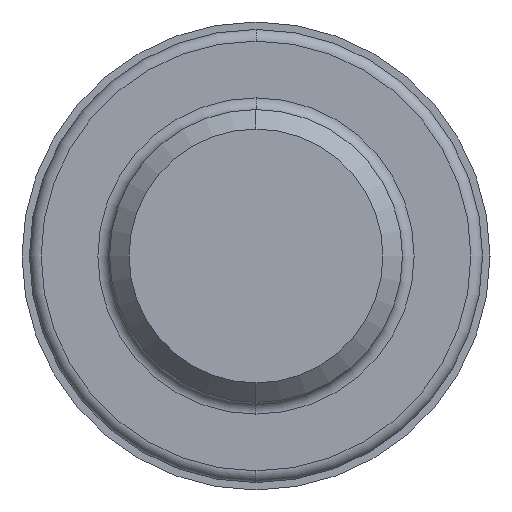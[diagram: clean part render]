
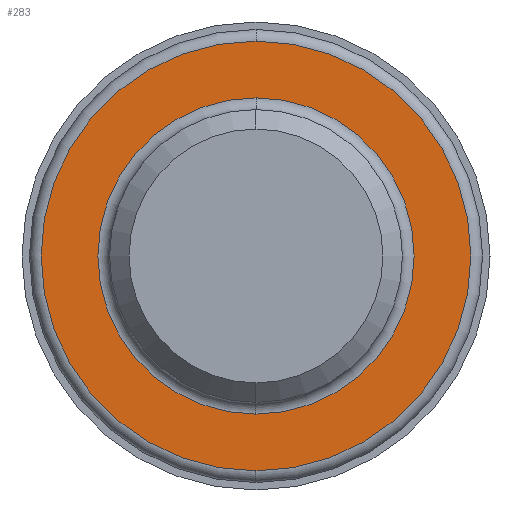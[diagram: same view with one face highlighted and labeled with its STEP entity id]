
A CAD part, left-side view. The second image highlights one B-rep face of the part: STEP entity #283.
In plain terms, the highlighted planar face has unit normal (-1, 0, 0).
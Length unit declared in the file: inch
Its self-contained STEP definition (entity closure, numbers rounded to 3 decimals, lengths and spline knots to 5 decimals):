
#59 = AXIS2_PLACEMENT_3D ( 'NONE', #202, #521, #146 ) ;
#68 = CARTESIAN_POINT ( 'NONE',  ( 2.125, 0., -0.55 ) ) ;
#75 = CARTESIAN_POINT ( 'NONE',  ( 2.125, 0., 0.40485 ) ) ;
#76 = AXIS2_PLACEMENT_3D ( 'NONE', #295, #250, #562 ) ;
#92 = EDGE_LOOP ( 'NONE', ( #256, #463 ) ) ;
#107 = EDGE_CURVE ( 'NONE', #120, #126, #249, .T. ) ;
#113 = AXIS2_PLACEMENT_3D ( 'NONE', #510, #210, #477 ) ;
#115 = CARTESIAN_POINT ( 'NONE',  ( 2.125, 0., 0. ) ) ;
#120 = VERTEX_POINT ( 'NONE', #139 ) ;
#123 = AXIS2_PLACEMENT_3D ( 'NONE', #241, #557, #189 ) ;
#126 = VERTEX_POINT ( 'NONE', #75 ) ;
#139 = CARTESIAN_POINT ( 'NONE',  ( 2.125, 0., -0.40485 ) ) ;
#146 = DIRECTION ( 'NONE',  ( 0., 0., 1. ) ) ;
#163 = EDGE_CURVE ( 'NONE', #227, #188, #489, .T. ) ;
#188 = VERTEX_POINT ( 'NONE', #68 ) ;
#189 = DIRECTION ( 'NONE',  ( 0., 0., 1. ) ) ;
#191 = FACE_OUTER_BOUND ( 'NONE', #373, .T. ) ;
#201 = CIRCLE ( 'NONE', #577, 0.40485 ) ;
#202 = CARTESIAN_POINT ( 'NONE',  ( 2.125, 0., 0. ) ) ;
#210 = DIRECTION ( 'NONE',  ( 1., 0., 0. ) ) ;
#227 = VERTEX_POINT ( 'NONE', #372 ) ;
#241 = CARTESIAN_POINT ( 'NONE',  ( 2.125, 0., 0. ) ) ;
#249 = CIRCLE ( 'NONE', #76, 0.40485 ) ;
#250 = DIRECTION ( 'NONE',  ( -1., 0., 0. ) ) ;
#256 = ORIENTED_EDGE ( 'NONE', *, *, #597, .F. ) ;
#283 = ADVANCED_FACE ( 'NONE', ( #348, #191 ), #356, .F. ) ;
#295 = CARTESIAN_POINT ( 'NONE',  ( 2.125, 0., 0. ) ) ;
#348 = FACE_BOUND ( 'NONE', #92, .T. ) ;
#356 = PLANE ( 'NONE',  #113 ) ;
#372 = CARTESIAN_POINT ( 'NONE',  ( 2.125, 0., 0.55 ) ) ;
#373 = EDGE_LOOP ( 'NONE', ( #641, #558 ) ) ;
#439 = DIRECTION ( 'NONE',  ( 0., 0., 1. ) ) ;
#463 = ORIENTED_EDGE ( 'NONE', *, *, #107, .F. ) ;
#470 = CIRCLE ( 'NONE', #59, 0.55 ) ;
#477 = DIRECTION ( 'NONE',  ( 0., 0., -1. ) ) ;
#489 = CIRCLE ( 'NONE', #123, 0.55 ) ;
#490 = DIRECTION ( 'NONE',  ( -1., 0., 0. ) ) ;
#510 = CARTESIAN_POINT ( 'NONE',  ( 2.125, 0.55, 0. ) ) ;
#521 = DIRECTION ( 'NONE',  ( -1., 0., 0. ) ) ;
#557 = DIRECTION ( 'NONE',  ( -1., 0., 0. ) ) ;
#558 = ORIENTED_EDGE ( 'NONE', *, *, #636, .T. ) ;
#562 = DIRECTION ( 'NONE',  ( 0., 0., 1. ) ) ;
#577 = AXIS2_PLACEMENT_3D ( 'NONE', #115, #490, #439 ) ;
#597 = EDGE_CURVE ( 'NONE', #126, #120, #201, .T. ) ;
#636 = EDGE_CURVE ( 'NONE', #188, #227, #470, .T. ) ;
#641 = ORIENTED_EDGE ( 'NONE', *, *, #163, .T. ) ;
